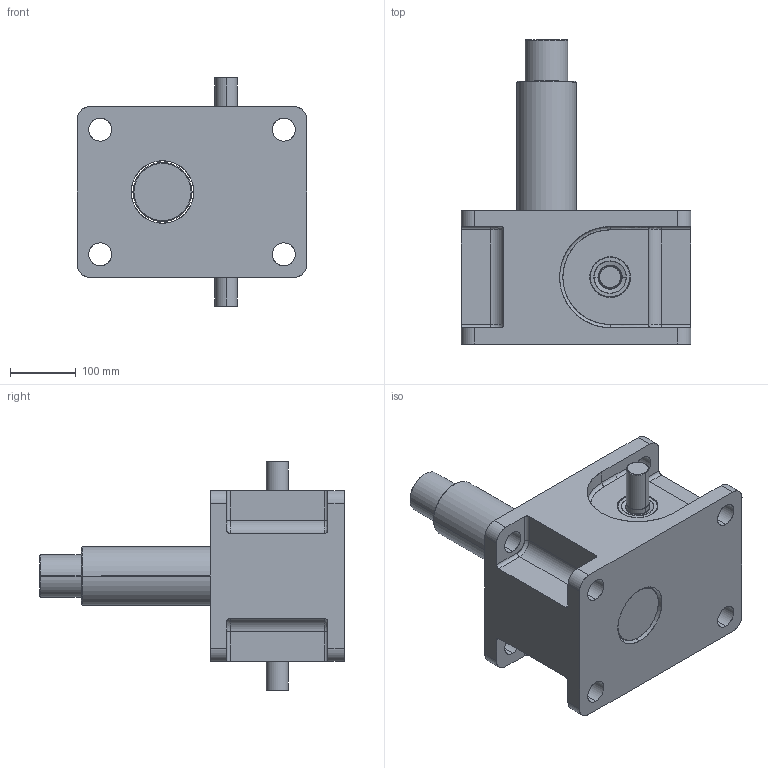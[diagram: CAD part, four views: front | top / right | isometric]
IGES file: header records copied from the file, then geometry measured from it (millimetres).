
Start section: SolidWorks IGES file using analytic representation for surfaces
Global section: file name: E:\3D\desenv\Solid Works\Levy\web\LMR\LMR25_30\LMR25_30.IGS; native system: SolidWorks 2008; preprocessor: SolidWorks 2008; author: User; date: 080730.212008; units: millimetre
Bounding box: 350 x 464 x 350 mm (x, y, z)
Surface area: 767927.6 mm2 (no closed solid volume)
Topology: 0 solids, 0 shells, 197 faces, 4500 edges, 4500 vertices
Faces by surface type: revolution 135, bspline 62
